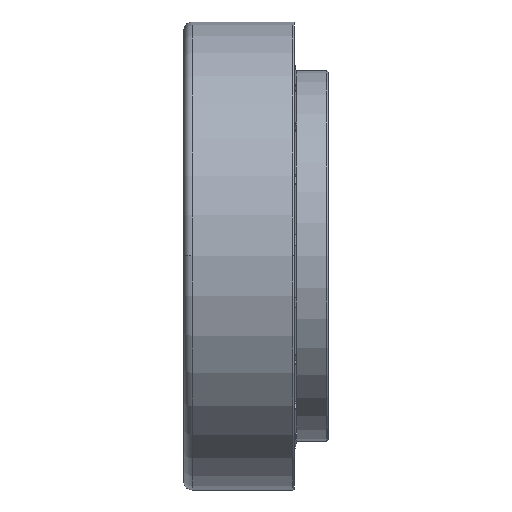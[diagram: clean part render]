
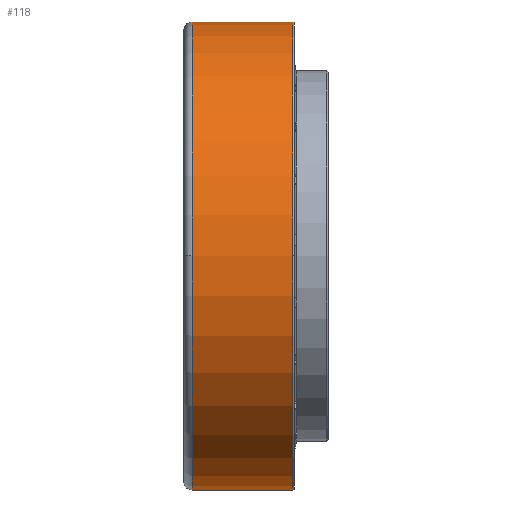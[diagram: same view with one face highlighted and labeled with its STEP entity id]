
A CAD part, top view. The second image highlights one B-rep face of the part: STEP entity #118.
In plain terms, the highlighted cylindrical face has radius 27.5 mm (diameter 55 mm), a partial arc.
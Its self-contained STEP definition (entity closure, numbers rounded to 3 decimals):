
#118=ADVANCED_FACE('',(#298),#299,.T.);
#298=FACE_OUTER_BOUND('',#640,.T.);
#299=CYLINDRICAL_SURFACE('',#641,27.5);
#640=EDGE_LOOP('',(#1132,#1133,#1134,#1135,#1136,#1137));
#641=AXIS2_PLACEMENT_3D('',#1138,#1139,#1140);
#1132=ORIENTED_EDGE('',*,*,#2077,.F.);
#1133=ORIENTED_EDGE('',*,*,#2078,.T.);
#1134=ORIENTED_EDGE('',*,*,#2079,.T.);
#1135=ORIENTED_EDGE('',*,*,#2080,.F.);
#1136=ORIENTED_EDGE('',*,*,#2081,.F.);
#1137=ORIENTED_EDGE('',*,*,#2073,.F.);
#1138=CARTESIAN_POINT('',(6.9,0.0,0.0));
#1139=DIRECTION('',(1.0,0.0,0.0));
#1140=DIRECTION('',(0.0,1.0,0.0));
#2073=EDGE_CURVE('',#2430,#2432,#2433,.T.);
#2077=EDGE_CURVE('',#2439,#2430,#2440,.T.);
#2078=EDGE_CURVE('',#2439,#2441,#2442,.T.);
#2079=EDGE_CURVE('',#2441,#2443,#2444,.T.);
#2080=EDGE_CURVE('',#2445,#2443,#2446,.T.);
#2081=EDGE_CURVE('',#2432,#2445,#2447,.T.);
#2430=VERTEX_POINT('',#2970);
#2432=VERTEX_POINT('',#2972);
#2433=CIRCLE('',#2973,27.5);
#2439=VERTEX_POINT('',#2979);
#2440=LINE('',#2980,#2981);
#2441=VERTEX_POINT('',#2982);
#2442=CIRCLE('',#2983,27.5);
#2443=VERTEX_POINT('',#2984);
#2444=CIRCLE('',#2985,27.5);
#2445=VERTEX_POINT('',#2986);
#2446=LINE('',#2987,#2988);
#2447=CIRCLE('',#2989,27.5);
#2970=CARTESIAN_POINT('',(12.8,27.5,0.0));
#2972=CARTESIAN_POINT('',(12.8,0.,27.5));
#2973=AXIS2_PLACEMENT_3D('',#5032,#5033,#5034);
#2979=CARTESIAN_POINT('',(1.0,27.5,0.0));
#2980=CARTESIAN_POINT('',(6.9,27.5,0.));
#2981=VECTOR('',#5044,1.0);
#2982=CARTESIAN_POINT('',(1.0,0.,27.5));
#2983=AXIS2_PLACEMENT_3D('',#5045,#5046,#5047);
#2984=CARTESIAN_POINT('',(1.0,-27.5,0.));
#2985=AXIS2_PLACEMENT_3D('',#5048,#5049,#5050);
#2986=CARTESIAN_POINT('',(12.8,-27.5,0.));
#2987=CARTESIAN_POINT('',(6.9,-27.5,0.));
#2988=VECTOR('',#5051,1.0);
#2989=AXIS2_PLACEMENT_3D('',#5052,#5053,#5054);
#5032=CARTESIAN_POINT('',(12.8,0.0,0.0));
#5033=DIRECTION('',(1.0,0.0,0.0));
#5034=DIRECTION('',(0.0,1.0,0.0));
#5044=DIRECTION('',(1.0,0.0,0.0));
#5045=CARTESIAN_POINT('',(1.0,0.0,0.0));
#5046=DIRECTION('',(1.0,0.0,0.0));
#5047=DIRECTION('',(0.0,1.0,0.0));
#5048=CARTESIAN_POINT('',(1.0,0.0,0.0));
#5049=DIRECTION('',(1.0,0.0,0.0));
#5050=DIRECTION('',(0.0,1.0,0.0));
#5051=DIRECTION('',(-1.0,-0.0,-0.0));
#5052=CARTESIAN_POINT('',(12.8,0.0,0.0));
#5053=DIRECTION('',(1.0,0.0,0.0));
#5054=DIRECTION('',(0.0,1.0,0.0));
